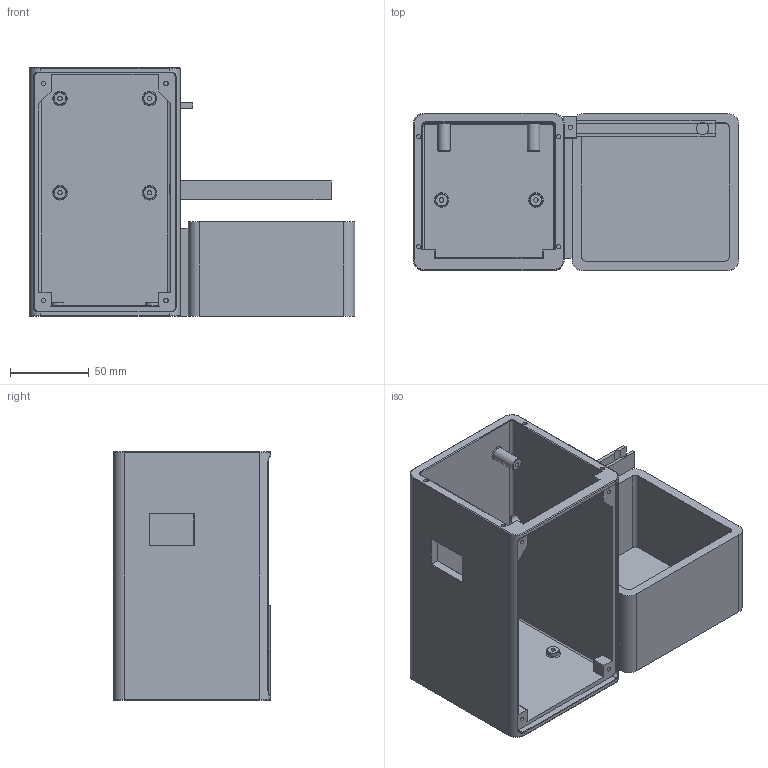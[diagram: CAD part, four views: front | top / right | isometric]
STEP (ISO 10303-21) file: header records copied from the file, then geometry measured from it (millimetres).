
FILE_DESCRIPTION(('Open CASCADE Model'),'2;1');
FILE_NAME('Open CASCADE Shape Model','2026-09-13T14:28:33',('Author'),( 'Open CASCADE'),'Open CASCADE STEP processor 7.9','Open CASCADE 7.9' ,'Unknown');
FILE_SCHEMA(('AUTOMOTIVE_DESIGN { 1 0 10303 214 1 1 1 1 }'));
Length unit declared in the file: millimetre
Products named in the file (1): Open CASCADE STEP translator 7.9 6
Bounding box: 207 x 100 x 158 mm (x, y, z)
Volume: 512413.3 mm3; surface area: 175220.8 mm2
Topology: 1 solids, 1 shells, 214 faces, 516 edges, 319 vertices
Faces by surface type: plane 112, cylinder 70, torus 22, cone 6, bspline 4
Full cylindrical faces by diameter (mm): 2.8 x15, 8 x8
Entity records: 14772 total; most frequent: CARTESIAN_POINT 4535, DIRECTION 1880, ORIENTED_EDGE 1032, PCURVE 1032, DEFINITIONAL_REPRESENTATION 1032, LINE 995, VECTOR 995, EDGE_CURVE 516
